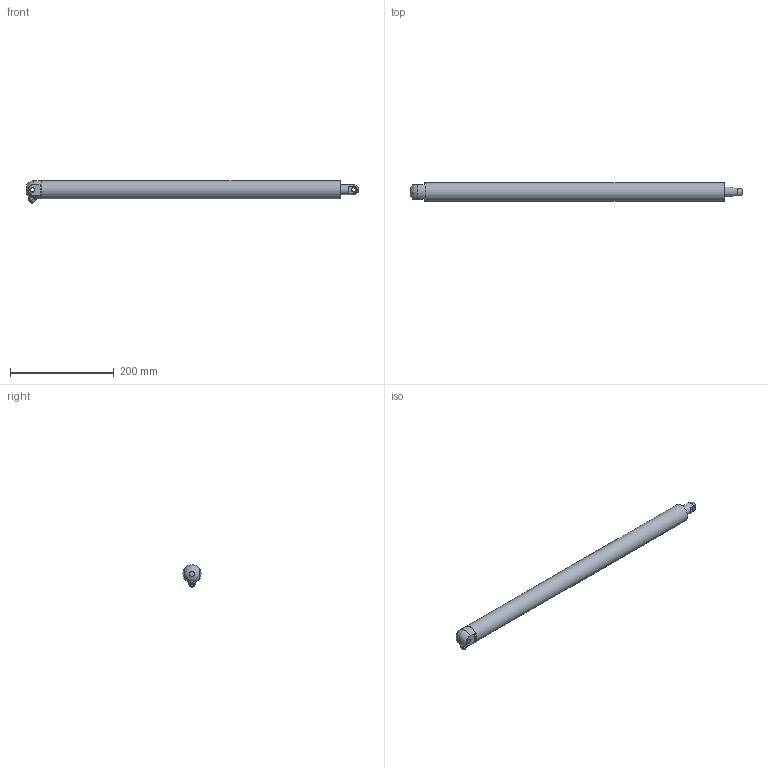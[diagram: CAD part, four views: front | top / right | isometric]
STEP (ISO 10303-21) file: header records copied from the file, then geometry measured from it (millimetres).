
FILE_DESCRIPTION( ( 'Unknown' ), '1' );
FILE_NAME( 'Z:/12¬ãµo³¡/Project/Automation/Linear Actuators/CAD/ELA35/STEP/ELA35400B.stp', 'Unknown', ( 'Unknown' ), ( 'Unknown' ), 'PSStep 10.0', 'Unknown', ' ' );
FILE_SCHEMA( ( 'AUTOMOTIVE_DESIGN { 1 0 10303 214 1 1 1 1 }' ) );
Length unit declared in the file: millimetre
Products named in the file (1): 1
Bounding box: 640 x 35 x 43.33 mm (x, y, z)
Volume: 151046.5 mm3; surface area: 128400.1 mm2
Topology: 1 solids, 2 shells, 61 faces, 149 edges, 97 vertices
Faces by surface type: plane 30, cylinder 21, cone 7, bspline 2, torus 1
Full cylindrical faces by diameter (mm): 8.1 x2, 10.8 x2, 19 x1, 31 x1, 35 x2
Entity records: 2428 total; most frequent: CARTESIAN_POINT 557, DIRECTION 296, ORIENTED_EDGE 250, EDGE_CURVE 125, AXIS2_PLACEMENT_3D 118, VERTEX_POINT 91, EDGE_LOOP 88, FACE_OUTER_BOUND 72
